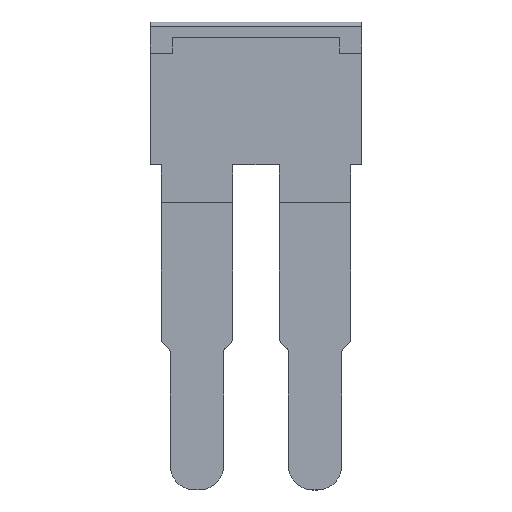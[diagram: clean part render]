
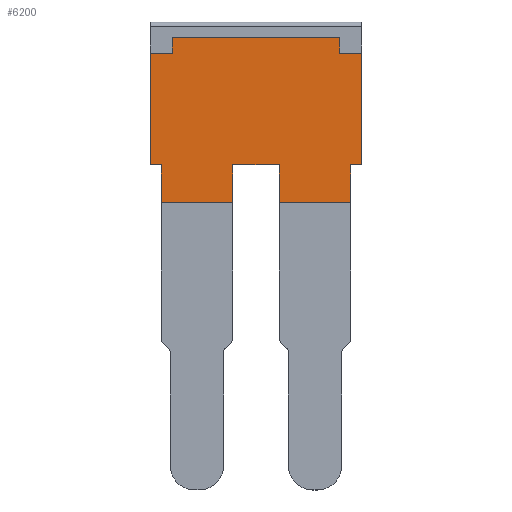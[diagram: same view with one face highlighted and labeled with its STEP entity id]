
A CAD part, top view. The second image highlights one B-rep face of the part: STEP entity #6200.
In plain terms, the highlighted planar face has unit normal (0, 0, 1) as drawn and (0, -1, 0) by its records, which use the part's own axes.
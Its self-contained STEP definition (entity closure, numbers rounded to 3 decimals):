
#4850=CARTESIAN_POINT('',(10.65,-0.9,-14.277));
#4860=DIRECTION('',(0.,1.,0.));
#4870=DIRECTION('',(0.,0.,1.));
#4880=AXIS2_PLACEMENT_3D('',#4850,#4860,#4870);
#4890=PLANE('',#4880);
#4900=CARTESIAN_POINT('',(-30.85,-0.9,0.));
#4910=DIRECTION('',(0.,0.,-1.));
#4920=VECTOR('',#4910,1.);
#4930=LINE('',#4900,#4920);
#4940=CARTESIAN_POINT('',(-30.85,-0.9,
-20.277));
#4950=VERTEX_POINT('',#4940);
#4960=CARTESIAN_POINT('',(-30.85,-0.9,
-20.977));
#4970=VERTEX_POINT('',#4960);
#4980=EDGE_CURVE('',#4950,#4970,#4930,.T.);
#4990=ORIENTED_EDGE('',*,*,#4980,.T.);
#5000=CARTESIAN_POINT('',(0.,-0.9,-20.277));
#5010=DIRECTION('',(-1.,0.,0.));
#5020=VECTOR('',#5010,1.);
#5030=LINE('',#5000,#5020);
#5040=CARTESIAN_POINT('',(-31.85,-0.9,
-20.277));
#5050=VERTEX_POINT('',#5040);
#5060=EDGE_CURVE('',#4950,#5050,#5030,.T.);
#5070=ORIENTED_EDGE('',*,*,#5060,.F.);
#5080=CARTESIAN_POINT('',(-31.85,-0.9,0.));
#5090=DIRECTION('',(0.,0.,1.));
#5100=VECTOR('',#5090,1.);
#5110=LINE('',#5080,#5100);
#5120=CARTESIAN_POINT('',(-31.85,-0.9,
-15.277));
#5130=VERTEX_POINT('',#5120);
#5140=EDGE_CURVE('',#5050,#5130,#5110,.T.);
#5150=ORIENTED_EDGE('',*,*,#5140,.F.);
#5160=CARTESIAN_POINT('',(0.,-0.9,-15.277));
#5170=DIRECTION('',(1.,0.,0.));
#5180=VECTOR('',#5170,1.);
#5190=LINE('',#5160,#5180);
#5200=CARTESIAN_POINT('',(-31.35,-0.9,
-15.277));
#5210=VERTEX_POINT('',#5200);
#5220=EDGE_CURVE('',#5130,#5210,#5190,.T.);
#5230=ORIENTED_EDGE('',*,*,#5220,.F.);
#5240=CARTESIAN_POINT('',(-31.35,-0.9,0.));
#5250=DIRECTION('',(0.,0.,1.));
#5260=VECTOR('',#5250,1.);
#5270=LINE('',#5240,#5260);
#5280=CARTESIAN_POINT('',(-31.35,-0.9,
-13.577));
#5290=VERTEX_POINT('',#5280);
#5300=EDGE_CURVE('',#5210,#5290,#5270,.T.);
#5310=ORIENTED_EDGE('',*,*,#5300,.F.);
#5320=CARTESIAN_POINT('',(0.,-0.9,-13.577));
#5330=DIRECTION('',(-1.,0.,0.));
#5340=VECTOR('',#5330,1.);
#5350=LINE('',#5320,#5340);
#5360=CARTESIAN_POINT('',(-28.15,-0.9,
-13.577));
#5370=VERTEX_POINT('',#5360);
#5380=EDGE_CURVE('',#5370,#5290,#5350,.T.);
#5390=ORIENTED_EDGE('',*,*,#5380,.T.);
#5400=CARTESIAN_POINT('',(-28.15,-0.9,0.));
#5410=DIRECTION('',(0.,0.,-1.));
#5420=VECTOR('',#5410,1.);
#5430=LINE('',#5400,#5420);
#5440=CARTESIAN_POINT('',(-28.15,-0.9,
-15.277));
#5450=VERTEX_POINT('',#5440);
#5460=EDGE_CURVE('',#5370,#5450,#5430,.T.);
#5470=ORIENTED_EDGE('',*,*,#5460,.F.);
#5480=CARTESIAN_POINT('',(0.,-0.9,-15.277));
#5490=DIRECTION('',(1.,0.,0.));
#5500=VECTOR('',#5490,1.);
#5510=LINE('',#5480,#5500);
#5520=CARTESIAN_POINT('',(-26.05,-0.9,
-15.277));
#5530=VERTEX_POINT('',#5520);
#5540=EDGE_CURVE('',#5450,#5530,#5510,.T.);
#5550=ORIENTED_EDGE('',*,*,#5540,.F.);
#5560=CARTESIAN_POINT('',(-26.05,-0.9,0.));
#5570=DIRECTION('',(0.,0.,1.));
#5580=VECTOR('',#5570,1.);
#5590=LINE('',#5560,#5580);
#5600=CARTESIAN_POINT('',(-26.05,-0.9,
-13.577));
#5610=VERTEX_POINT('',#5600);
#5620=EDGE_CURVE('',#5530,#5610,#5590,.T.);
#5630=ORIENTED_EDGE('',*,*,#5620,.F.);
#5640=CARTESIAN_POINT('',(-42.4,-0.9,
-13.577));
#5650=DIRECTION('',(-1.,0.,0.));
#5660=VECTOR('',#5650,1.);
#5670=LINE('',#5640,#5660);
#5680=CARTESIAN_POINT('',(-22.85,-0.9,
-13.577));
#5690=VERTEX_POINT('',#5680);
#5700=EDGE_CURVE('',#5690,#5610,#5670,.T.);
#5710=ORIENTED_EDGE('',*,*,#5700,.T.);
#5720=CARTESIAN_POINT('',(-22.85,-0.9,0.));
#5730=DIRECTION('',(0.,0.,-1.));
#5740=VECTOR('',#5730,1.);
#5750=LINE('',#5720,#5740);
#5760=CARTESIAN_POINT('',(-22.85,-0.9,
-15.277));
#5770=VERTEX_POINT('',#5760);
#5780=EDGE_CURVE('',#5690,#5770,#5750,.T.);
#5790=ORIENTED_EDGE('',*,*,#5780,.F.);
#5800=CARTESIAN_POINT('',(-42.4,-0.9,
-15.277));
#5810=DIRECTION('',(1.,0.,0.));
#5820=VECTOR('',#5810,1.);
#5830=LINE('',#5800,#5820);
#5840=CARTESIAN_POINT('',(-22.35,-0.9,
-15.277));
#5850=VERTEX_POINT('',#5840);
#5860=EDGE_CURVE('',#5770,#5850,#5830,.T.);
#5870=ORIENTED_EDGE('',*,*,#5860,.F.);
#5880=CARTESIAN_POINT('',(-22.35,-0.9,0.));
#5890=DIRECTION('',(0.,0.,1.));
#5900=VECTOR('',#5890,1.);
#5910=LINE('',#5880,#5900);
#5920=CARTESIAN_POINT('',(-22.35,-0.9,
-20.277));
#5930=VERTEX_POINT('',#5920);
#5940=EDGE_CURVE('',#5930,#5850,#5910,.T.);
#5950=ORIENTED_EDGE('',*,*,#5940,.T.);
#5960=CARTESIAN_POINT('',(-42.4,-0.9,
-20.277));
#5970=DIRECTION('',(-1.,0.,0.));
#5980=VECTOR('',#5970,1.);
#5990=LINE('',#5960,#5980);
#6000=CARTESIAN_POINT('',(-23.35,-0.9,
-20.277));
#6010=VERTEX_POINT('',#6000);
#6020=EDGE_CURVE('',#5930,#6010,#5990,.T.);
#6030=ORIENTED_EDGE('',*,*,#6020,.F.);
#6040=CARTESIAN_POINT('',(-23.35,-0.9,0.));
#6050=DIRECTION('',(0.,0.,-1.));
#6060=VECTOR('',#6050,1.);
#6070=LINE('',#6040,#6060);
#6080=CARTESIAN_POINT('',(-23.35,-0.9,
-20.977));
#6090=VERTEX_POINT('',#6080);
#6100=EDGE_CURVE('',#6010,#6090,#6070,.T.);
#6110=ORIENTED_EDGE('',*,*,#6100,.F.);
#6120=CARTESIAN_POINT('',(0.,-0.9,-20.977));
#6130=DIRECTION('',(-1.,0.,0.));
#6140=VECTOR('',#6130,1.);
#6150=LINE('',#6120,#6140);
#6160=EDGE_CURVE('',#6090,#4970,#6150,.T.);
#6170=ORIENTED_EDGE('',*,*,#6160,.F.);
#6180=EDGE_LOOP('',(#6170,#6110,#6030,#5950,#5870,#5790,#5710,#5630,
#5550,#5470,#5390,#5310,#5230,#5150,#5070,#4990));
#6190=FACE_OUTER_BOUND('',#6180,.T.);
#6200=ADVANCED_FACE('',(#6190),#4890,.F.);
